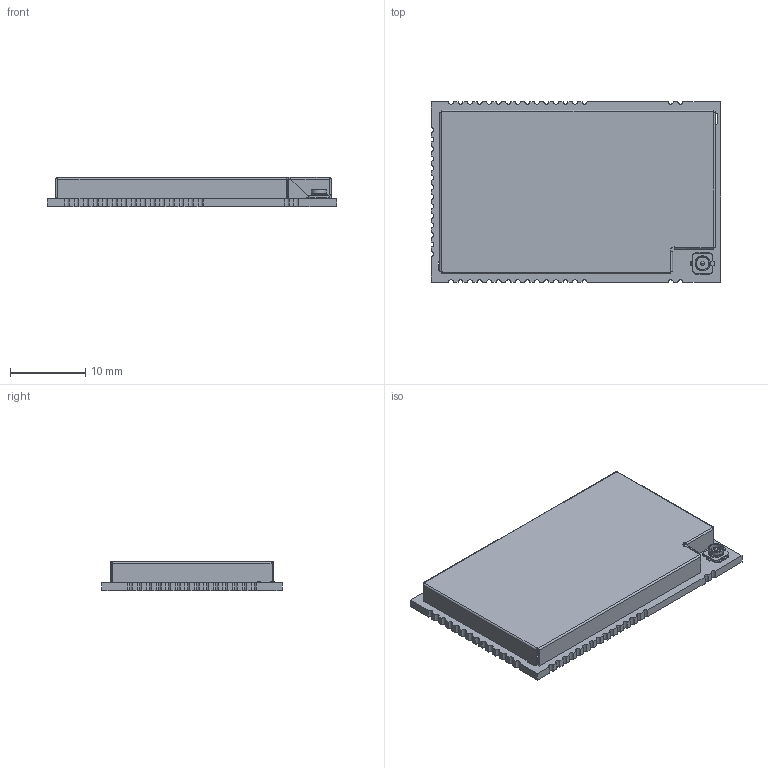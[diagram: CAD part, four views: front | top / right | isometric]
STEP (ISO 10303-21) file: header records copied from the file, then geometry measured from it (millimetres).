
FILE_DESCRIPTION(('Open CASCADE Model'),'2;1');
FILE_NAME('Open CASCADE Shape Model','2024-06-05T16:06:30',('Author'),( 'Open CASCADE'),'Open CASCADE STEP processor 7.5','Open CASCADE 7.5' ,'Unknown');
FILE_SCHEMA(('AUTOMOTIVE_DESIGN { 1 0 10303 214 1 1 1 1 }'));
Length unit declared in the file: millimetre
Products named in the file (3): Open CASCADE STEP translator 7.5 1; Open CASCADE STEP translator 7.5 2; Open CASCADE STEP translator 7.5 3
Bounding box: 38.5 x 24 x 3.86 mm (x, y, z)
Volume: 1189 mm3; surface area: 4178.5 mm2
Topology: 3 solids, 3 shells, 369 faces, 971 edges, 599 vertices
Faces by surface type: plane 186, cylinder 137, torus 23, sphere 11, bspline 6, cone 6
Entity records: 11476 total; most frequent: CARTESIAN_POINT 2178, DIRECTION 1945, ORIENTED_EDGE 1920, EDGE_CURVE 960, AXIS2_PLACEMENT_3D 657, LINE 631, VECTOR 631, VERTEX_POINT 599
